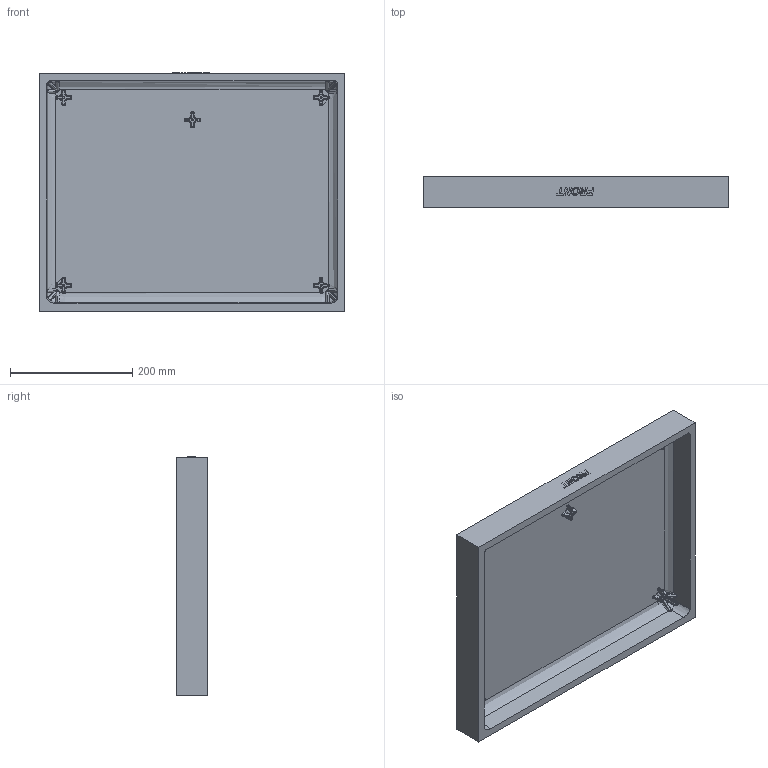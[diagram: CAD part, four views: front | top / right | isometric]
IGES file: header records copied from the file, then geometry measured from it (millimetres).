
Start section: SolidWorks IGES file using analytic representation for surfaces
Global section: file name: C:\working\Cases\1550\1552\1552-931T-CLR-OEM.IGS; native system: SolidWorks 2007; preprocessor: SolidWorks 2007; author: cchaiyont; date: 080801.101027; units: inch
Bounding box: 500.31 x 50.8 x 390.16 mm (x, y, z)
Surface area: 551029.6 mm2 (no closed solid volume)
Topology: 0 solids, 0 shells, 813 faces, 7069 edges, 7062 vertices
Faces by surface type: bspline 520, revolution 293
